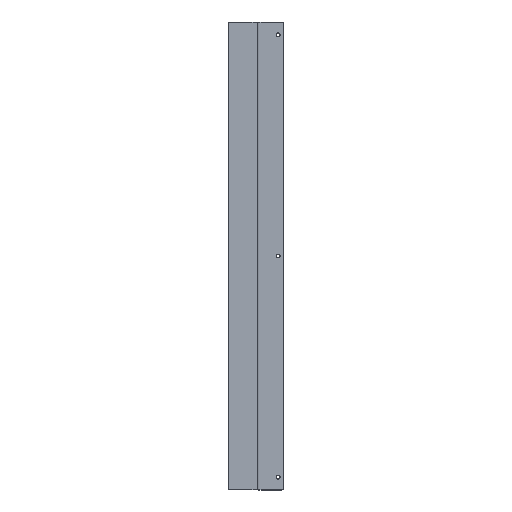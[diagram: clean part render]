
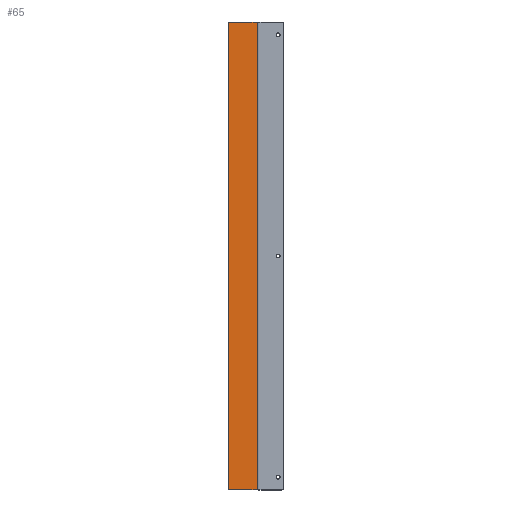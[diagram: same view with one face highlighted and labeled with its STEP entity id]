
A CAD part, top view. The second image highlights one B-rep face of the part: STEP entity #65.
In plain terms, the highlighted planar face has unit normal (0, 0, 1).
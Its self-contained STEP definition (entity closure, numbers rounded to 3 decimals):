
#65 = ADVANCED_FACE( '', ( #138 ), #139, .F. );
#138 = FACE_OUTER_BOUND( '', #211, .T. );
#139 = PLANE( '', #212 );
#211 = EDGE_LOOP( '', ( #340, #341, #342, #343, #344, #345 ) );
#212 = AXIS2_PLACEMENT_3D( '', #346, #347, #348 );
#340 = ORIENTED_EDGE( '', *, *, #449, .F. );
#341 = ORIENTED_EDGE( '', *, *, #455, .T. );
#342 = ORIENTED_EDGE( '', *, *, #462, .F. );
#343 = ORIENTED_EDGE( '', *, *, #459, .T. );
#344 = ORIENTED_EDGE( '', *, *, #465, .F. );
#345 = ORIENTED_EDGE( '', *, *, #410, .T. );
#346 = CARTESIAN_POINT( '', ( 0., 0., 0. ) );
#347 = DIRECTION( '', ( 0., 0., -1. ) );
#348 = DIRECTION( '', ( -1., 0., 0. ) );
#410 = EDGE_CURVE( '', #477, #478, #479, .T. );
#449 = EDGE_CURVE( '', #542, #478, #544, .T. );
#455 = EDGE_CURVE( '', #542, #550, #552, .F. );
#459 = EDGE_CURVE( '', #559, #557, #560, .F. );
#462 = EDGE_CURVE( '', #559, #550, #563, .T. );
#465 = EDGE_CURVE( '', #477, #557, #566, .T. );
#477 = VERTEX_POINT( '', #578 );
#478 = VERTEX_POINT( '', #579 );
#479 = LINE( '', #580, #581 );
#542 = VERTEX_POINT( '', #658 );
#544 = LINE( '', #661, #662 );
#550 = VERTEX_POINT( '', #669 );
#552 = CIRCLE( '', #672, 3.175 );
#557 = VERTEX_POINT( '', #677 );
#559 = VERTEX_POINT( '', #680 );
#560 = CIRCLE( '', #681, 3.175 );
#563 = LINE( '', #685, #686 );
#566 = LINE( '', #690, #691 );
#578 = CARTESIAN_POINT( '', ( 1.7, -347.663, 0. ) );
#579 = CARTESIAN_POINT( '', ( 1.7, 347.663, 0. ) );
#580 = CARTESIAN_POINT( '', ( 1.7, -347.663, 0. ) );
#581 = VECTOR( '', #704, 1000. );
#658 = CARTESIAN_POINT( '', ( -38.1, 347.663, 0. ) );
#661 = CARTESIAN_POINT( '', ( -41.275, 347.663, 0. ) );
#662 = VECTOR( '', #768, 1000. );
#669 = CARTESIAN_POINT( '', ( -41.275, 344.488, 0. ) );
#672 = AXIS2_PLACEMENT_3D( '', #777, #778, #779 );
#677 = CARTESIAN_POINT( '', ( -38.1, -347.663, 0. ) );
#680 = CARTESIAN_POINT( '', ( -41.275, -344.488, 0. ) );
#681 = AXIS2_PLACEMENT_3D( '', #784, #785, #786 );
#685 = CARTESIAN_POINT( '', ( -41.275, -347.663, 0. ) );
#686 = VECTOR( '', #788, 1000. );
#690 = CARTESIAN_POINT( '', ( 41.275, -347.663, 0. ) );
#691 = VECTOR( '', #790, 1000. );
#704 = DIRECTION( '', ( 0., 1., 0. ) );
#768 = DIRECTION( '', ( 1., 0., 0. ) );
#777 = CARTESIAN_POINT( '', ( -38.1, 344.488, 0. ) );
#778 = DIRECTION( '', ( 0., 0., -1. ) );
#779 = DIRECTION( '', ( -1., 0., 0. ) );
#784 = CARTESIAN_POINT( '', ( -38.1, -344.488, 0. ) );
#785 = DIRECTION( '', ( 0., 0., -1. ) );
#786 = DIRECTION( '', ( -1., 0., 0. ) );
#788 = DIRECTION( '', ( 0., 1., 0. ) );
#790 = DIRECTION( '', ( -1., 0., 0. ) );
